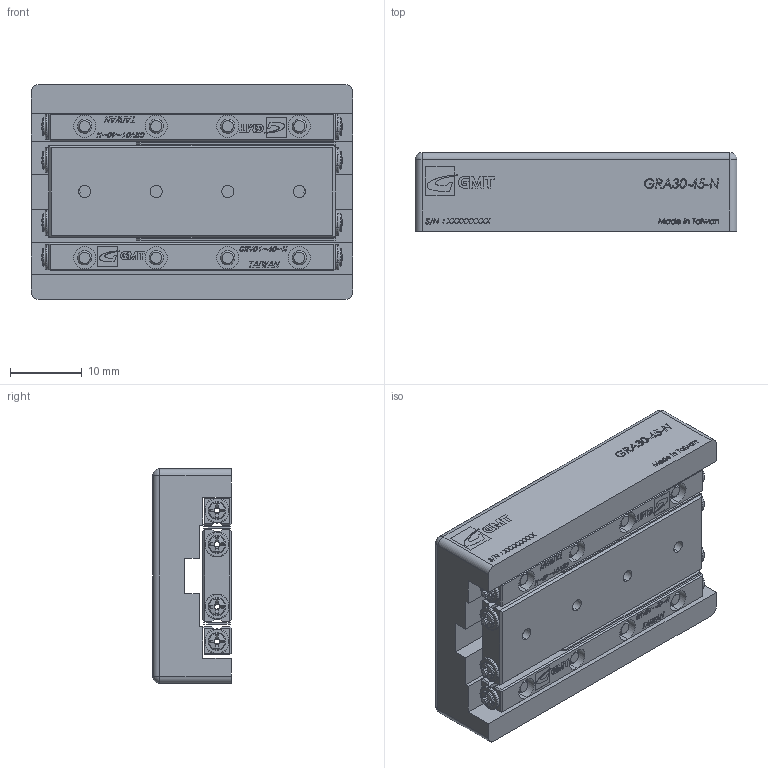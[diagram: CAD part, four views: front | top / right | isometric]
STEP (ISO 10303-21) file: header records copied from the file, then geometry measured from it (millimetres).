
FILE_DESCRIPTION (( 'STEP AP203' ), '1' );
FILE_NAME ('GRA30-45.STEP', '2012-10-18T06:06:46', ( '123' ), ( '' ), 'SwSTEP 2.0', 'SolidWorks 2012', '' );
FILE_SCHEMA (( 'CONFIG_CONTROL_DESIGN' ));
Products named in the file (1): GRA30-45
Bounding box: 45 x 11 x 30 mm (x, y, z)
Surface area: 7988.9 mm2 (no closed solid volume)
Topology: 0 solids, 62 shells, 958 faces, 5050 edges, 4024 vertices
Faces by surface type: plane 643, cylinder 141, cone 72, torus 64, sphere 20, bspline 18
Entity records: 54848 total; most frequent: CARTESIAN_POINT 17339, DIRECTION 7072, ORIENTED_EDGE 6816, EDGE_CURVE 5030, VERTEX_POINT 4024, LINE 3218, VECTOR 3218, AXIS2_PLACEMENT_3D 1927
